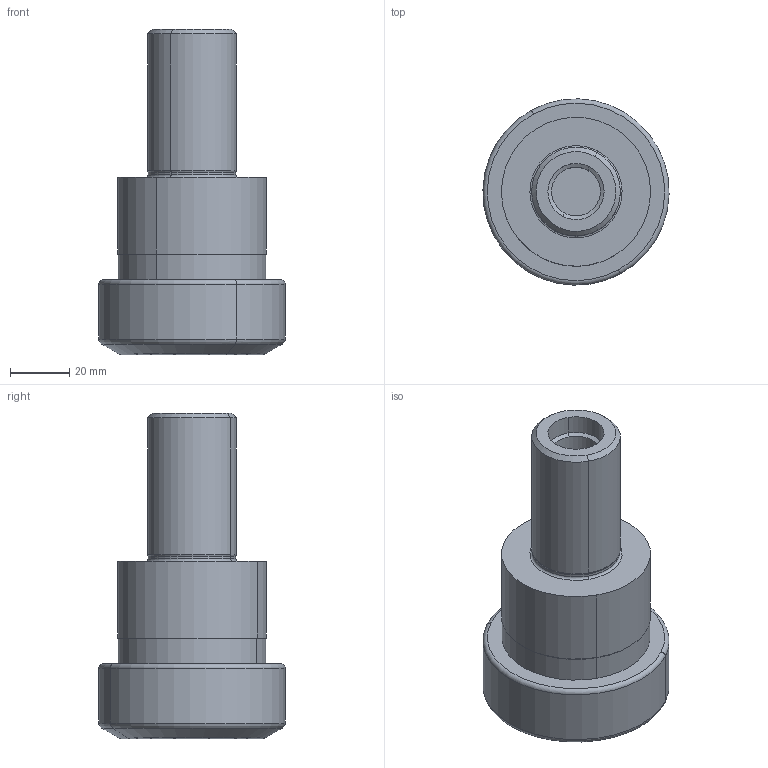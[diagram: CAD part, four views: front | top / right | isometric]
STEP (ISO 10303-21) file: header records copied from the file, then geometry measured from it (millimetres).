
FILE_DESCRIPTION(('CATIA V5 STEP','CAx-IF Rec.Pracs.--- Model Styling and Organization---1.2---2011-12-15'),'2;1');
FILE_NAME('\\nas01\drv1\utils\eitdev\rte\eit\transmagicconvert\db\out\635982923653501281\4517074 LM.stp','2016-05-08T05:19:37+00:00',('none'),('none'),'CATIA Version 5 Release 21 SP 5 (IN-10)','CATIA V5 STEP AP214','none');
FILE_SCHEMA(('AUTOMOTIVE_DESIGN { 1 0 10303 214 1 1 1 1 }'));
Length unit declared in the file: millimetre
Products named in the file (1): ST 30X 50 ER40 F
Bounding box: 62.98 x 62.98 x 110.03 mm (x, y, z)
Volume: 123289.6 mm3; surface area: 27595 mm2
Topology: 1 solids, 1 shells, 52 faces, 106 edges, 62 vertices
Faces by surface type: cylinder 20, cone 12, torus 10, plane 8, extrusion 2
Entity records: 1369 total; most frequent: CARTESIAN_POINT 347, ORIENTED_EDGE 212, DIRECTION 168, EDGE_CURVE 106, AXIS2_PLACEMENT_3D 101, CIRCLE 68, VERTEX_POINT 62, EDGE_LOOP 58
